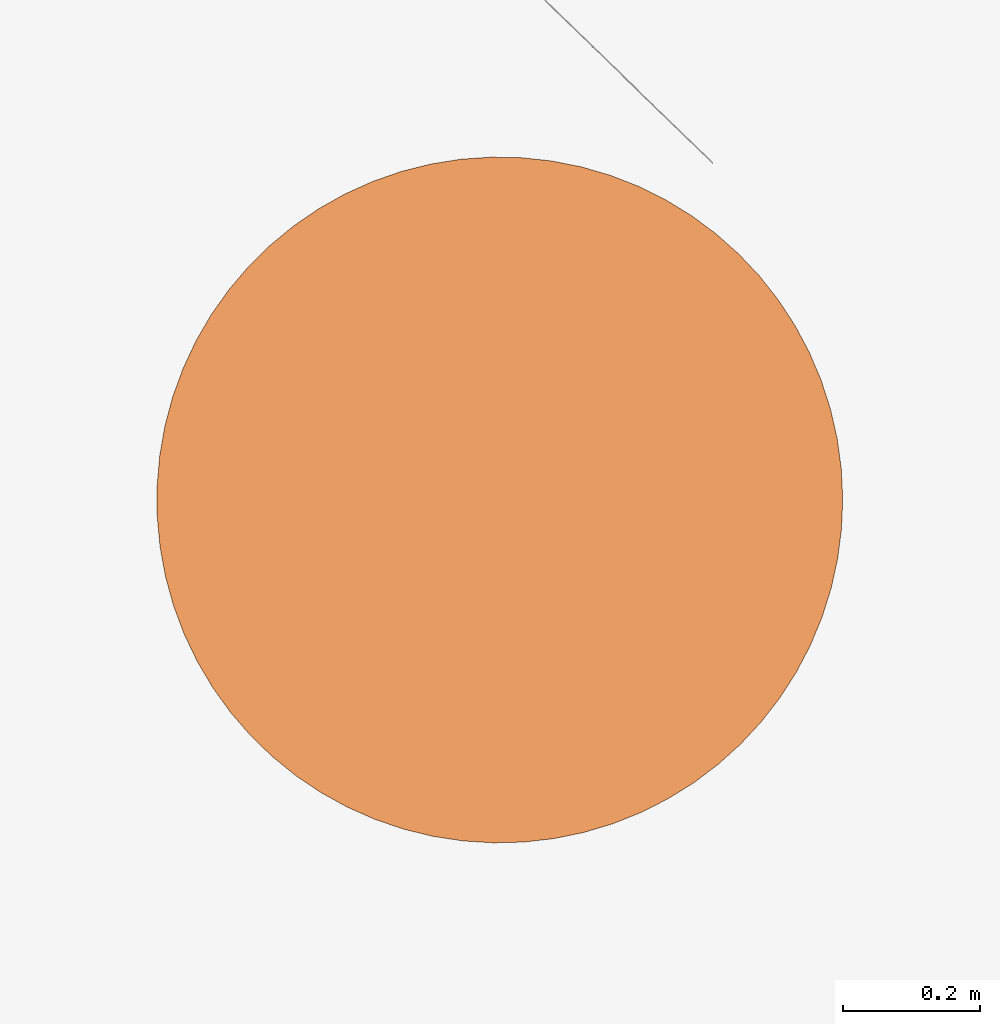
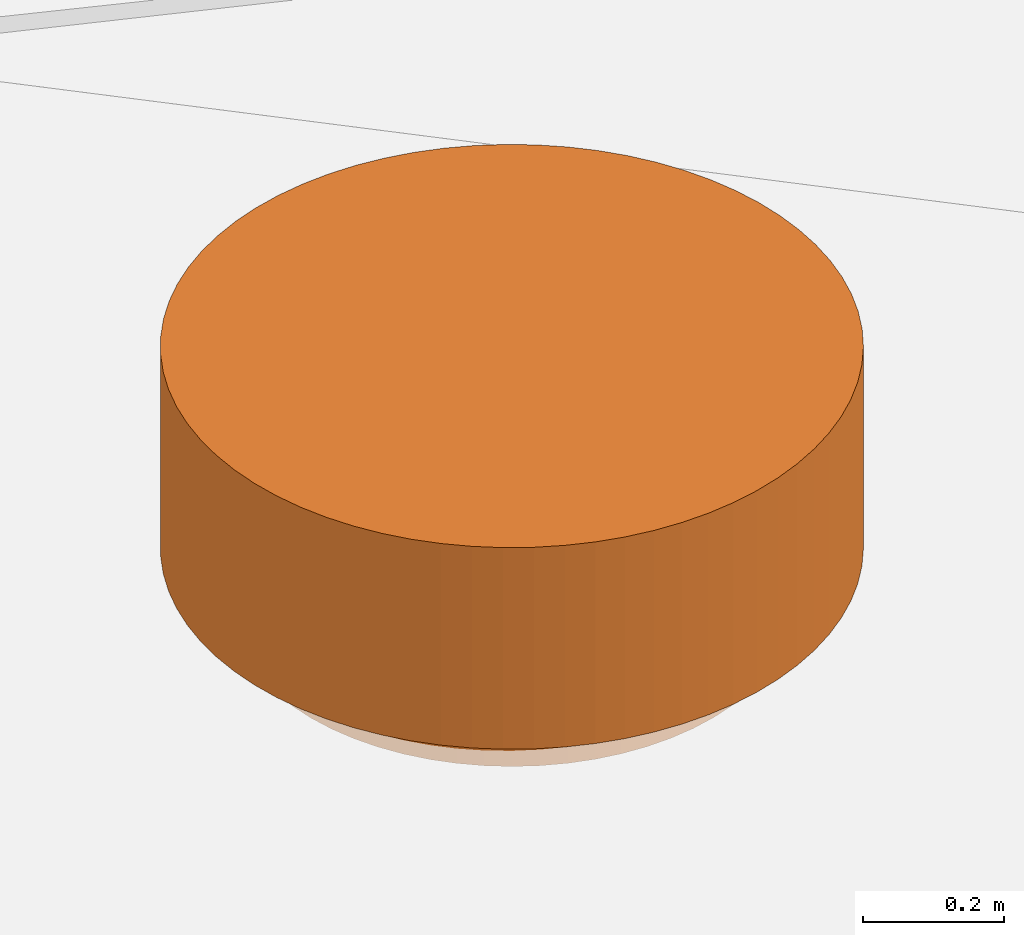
# One storey, part 37 of 37: 1 proxy.
"""IFC2X3 building model written with IfcOpenShell, lengths in centimetres."""

from ifc_helpers import new_model, entity, si_unit, converted_unit, derived_unit, direction, frame, frame_2d, origin, place, context, subcontext, project, spatial, circle, extrude, source, transform, mapped, material, type_object, type_shapes, element, save


model = new_model("IFC2X3")

# Units and contexts
model_context = context("Model", 3, precision=0.001, world=origin(), true_north=direction((0.717475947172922, 0.696583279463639)))
body_context = subcontext(model_context, "Body", "Model", "MODEL_VIEW")
ifc_project = project(units=[si_unit("LENGTHUNIT", "METRE", prefix="CENTI"), si_unit("AREAUNIT", "SQUARE_METRE"), si_unit("VOLUMEUNIT", "CUBIC_METRE"), converted_unit("PLANEANGLEUNIT", "DEGREE", entity("IfcRatioMeasure", 0.0174532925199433), si_unit("PLANEANGLEUNIT", "RADIAN"), dimensions=[0, 0, 0, 0, 0, 0, 0]), si_unit("MASSUNIT", "GRAM", prefix="KILO"), derived_unit("MASSDENSITYUNIT", [(si_unit("MASSUNIT", "GRAM", prefix="KILO"), 1), (si_unit("LENGTHUNIT", "METRE"), -3)]), si_unit("TIMEUNIT", "SECOND"), si_unit("FREQUENCYUNIT", "HERTZ"), si_unit("THERMODYNAMICTEMPERATUREUNIT", "DEGREE_CELSIUS"), derived_unit("THERMALTRANSMITTANCEUNIT", [(si_unit("MASSUNIT", "GRAM", prefix="KILO"), 1), (si_unit("THERMODYNAMICTEMPERATUREUNIT", "KELVIN"), -1), (si_unit("TIMEUNIT", "SECOND"), -3)]), derived_unit("VOLUMETRICFLOWRATEUNIT", [(si_unit("LENGTHUNIT", "METRE"), 3), (si_unit("TIMEUNIT", "SECOND"), -1)]), si_unit("ELECTRICCURRENTUNIT", "AMPERE"), si_unit("ELECTRICVOLTAGEUNIT", "VOLT"), si_unit("POWERUNIT", "WATT"), si_unit("FORCEUNIT", "NEWTON", prefix="KILO"), si_unit("ILLUMINANCEUNIT", "LUX"), si_unit("LUMINOUSFLUXUNIT", "LUMEN"), si_unit("LUMINOUSINTENSITYUNIT", "CANDELA"), derived_unit("USERDEFINED", [(si_unit("MASSUNIT", "GRAM", prefix="KILO"), -1), (si_unit("LENGTHUNIT", "METRE"), -2), (si_unit("TIMEUNIT", "SECOND"), 3), (si_unit("LUMINOUSFLUXUNIT", "LUMEN"), 1)]), derived_unit("LINEARVELOCITYUNIT", [(si_unit("LENGTHUNIT", "METRE"), 1), (si_unit("TIMEUNIT", "SECOND"), -1)]), si_unit("PRESSUREUNIT", "PASCAL"), derived_unit("USERDEFINED", [(si_unit("LENGTHUNIT", "METRE"), -2), (si_unit("MASSUNIT", "GRAM", prefix="KILO"), 1), (si_unit("TIMEUNIT", "SECOND"), -2)])], contexts=[model_context])

# Site, building, storey
site_placement = place(None, frame((0.0, 0.0, 0.0), z_axis=(0.0, 0.0, 1.0), x_axis=(0.696583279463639, 0.717475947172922, 0.0)))
site = spatial("IfcSite", under=ifc_project, at=site_placement, Name="Surface", CompositionType="ELEMENT")
building_placement = place(site_placement, origin())
building = spatial("IfcBuilding", under=site, at=building_placement, CompositionType="ELEMENT")
storey_placement = place(building_placement, origin())
storey = spatial("IfcBuildingStorey", under=building, at=storey_placement, Name="Nivel 0.00", CompositionType="ELEMENT", Elevation=0.0)

# Proxy
ifc_material = material(Name="Concrete, Precast")
building_element_proxy_type = type_object("IfcBuildingElementProxyType", Name="ARQ_BANCA_REDONDA", PredefinedType="NOTDEFINED", material=ifc_material)
shared_shape = source(origin(), body_context, "Body", "SweptSolid", [
    extrude(circle(Radius=50.0, at=frame_2d((9.37526436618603e-16, -8.07772287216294e-14), x_axis=(1.0, 0.0))), frame((0.0, 0.0, 10.0)), (0.0, 0.0, 1.0), 35.0),
    extrude(circle(Radius=40.0, at=frame_2d((-1.61808723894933e-18, -6.46217829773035e-14), x_axis=(1.0, 0.0))), origin(), (0.0, 0.0, 1.0), 10.0),
])
type_shapes(building_element_proxy_type, [shared_shape])
proxy_placement = place(storey_placement, frame((1472.25227678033, 446.930744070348, 140.0)))
element("IfcBuildingElementProxy", 1, at=proxy_placement, inside=storey, type_object=building_element_proxy_type, material=ifc_material, Name="ARQ_BANCA_REDONDA:ARQ_BANCA_REDONDA", ObjectType="ARQ_BANCA_REDONDA", context=body_context, shape_type="MappedRepresentation", body=[
    mapped(shared_shape, transform((0.0, 0.0, 0.0), scale=1.0)),
])

save(model, "model.ifc")
